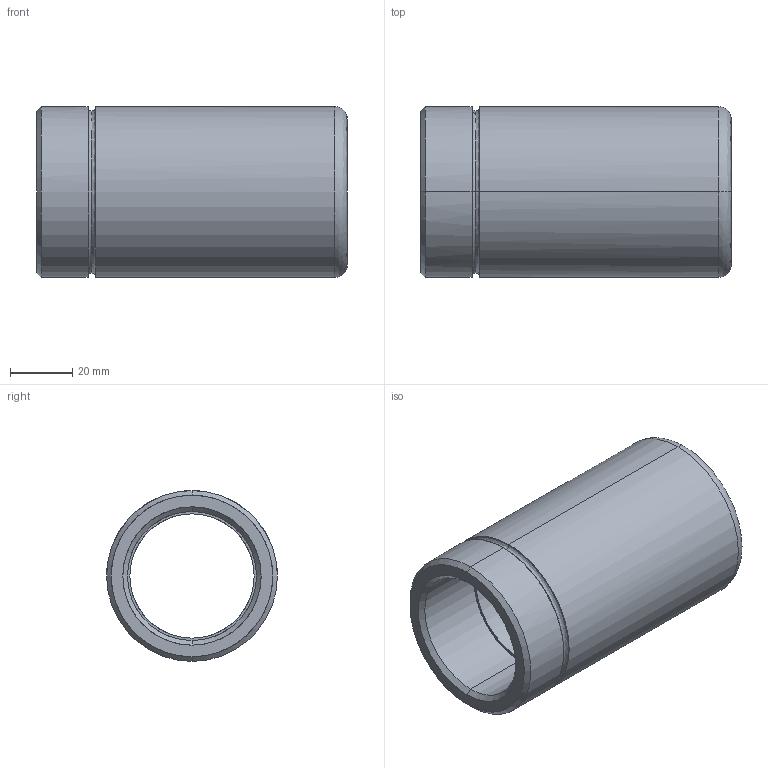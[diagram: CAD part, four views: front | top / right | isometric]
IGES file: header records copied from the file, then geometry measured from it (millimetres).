
Start section: START RECORD GO HERE.
Global section: file name: 343-40 x 100.igs; native system: DASSAULT SYSTEMES CATIA V5 R20 - www.3ds.com; preprocessor: CATIA Version 5 Release 20 ; author: Utente; organization: NB04-ASUS; date: 20201230.203326; units: millimetre
Bounding box: 100 x 55 x 55 mm (x, y, z)
Surface area: 32132.5 mm2 (no closed solid volume)
Topology: 0 solids, 0 shells, 29 faces, 172 edges, 172 vertices
Faces by surface type: revolution 26, plane 3
